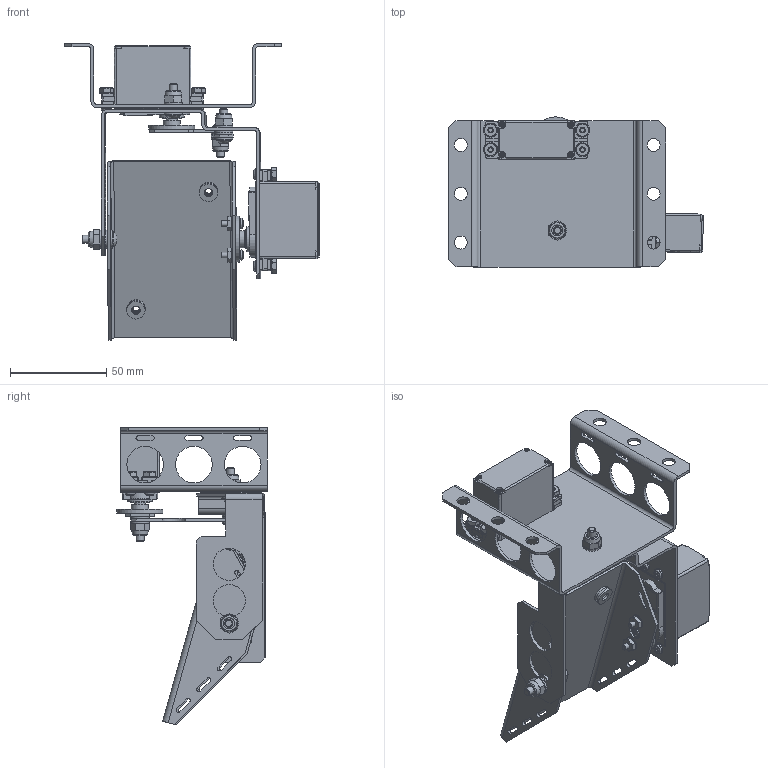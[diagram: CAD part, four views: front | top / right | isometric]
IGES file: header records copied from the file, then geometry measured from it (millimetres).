
Global section: file name: No Iges File Name specified; native system: AutoDesk Inventor R6.0; preprocessor: AutoDesk Inventor Iges Exporter R6.0; author: No Author specified; organization: No Organization specified; date: 20060116.003939; units: inch
Bounding box: 132.57 x 78.2 x 154.55 mm (x, y, z)
Surface area: 90288 mm2 (no closed solid volume)
Topology: 0 solids, 0 shells, 2482 faces, 11986 edges, 11638 vertices
Faces by surface type: plane 1492, revolution 805, bspline 185
